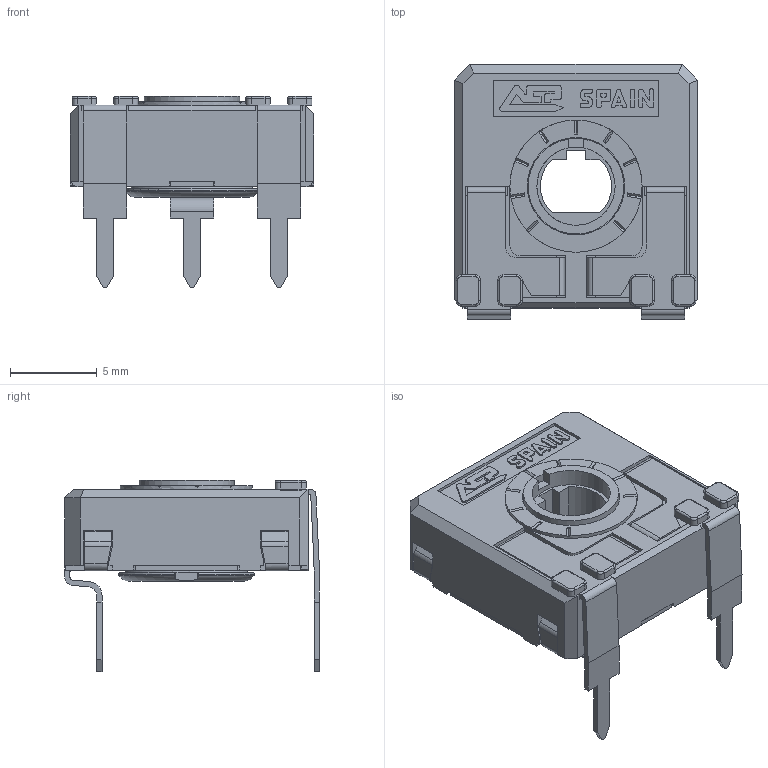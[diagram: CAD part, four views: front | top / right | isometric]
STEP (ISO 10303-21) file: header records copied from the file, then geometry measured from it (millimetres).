
FILE_DESCRIPTION(/* description */ (''),/* implementation_level */ '2;1');
FILE_NAME(/* name */ '\\SERVERACP\intercambio\Ignacio Santa Cecilia\Nueva WEB 2025\CA14 - CE14\CA14TV12,5.stp',/* time_stamp */ '2025-06-13T11:25:58+02:00',/* author */ ('CEM'),/* organization */ (''),/* preprocessor_version */ 'ST-DEVELOPER v17',/* originating_system */ 'Autodesk Inventor 2018',/* authorisation */ '');
FILE_SCHEMA (('AUTOMOTIVE_DESIGN { 1 0 10303 214 3 1 1 }'));
Length unit declared in the file: millimetre
Products named in the file (1): CARCASA CA14 PGA
Bounding box: 14 x 14.65 x 11 mm (x, y, z)
Volume: 533.8 mm3; surface area: 1496.5 mm2
Topology: 1 solids, 1 shells, 686 faces, 1944 edges, 1254 vertices
Faces by surface type: plane 506, cylinder 143, torus 23, bspline 8, cone 6
Full cylindrical faces by diameter (mm): 4.5 x1, 5.5 x1, 5.6 x1, 5.752 x1, 6.8 x1, 7.6 x1
Entity records: 22472 total; most frequent: CARTESIAN_POINT 4182, ORIENTED_EDGE 3888, DIRECTION 3629, EDGE_CURVE 1944, LINE 1527, VECTOR 1527, VERTEX_POINT 1254, AXIS2_PLACEMENT_3D 1051
